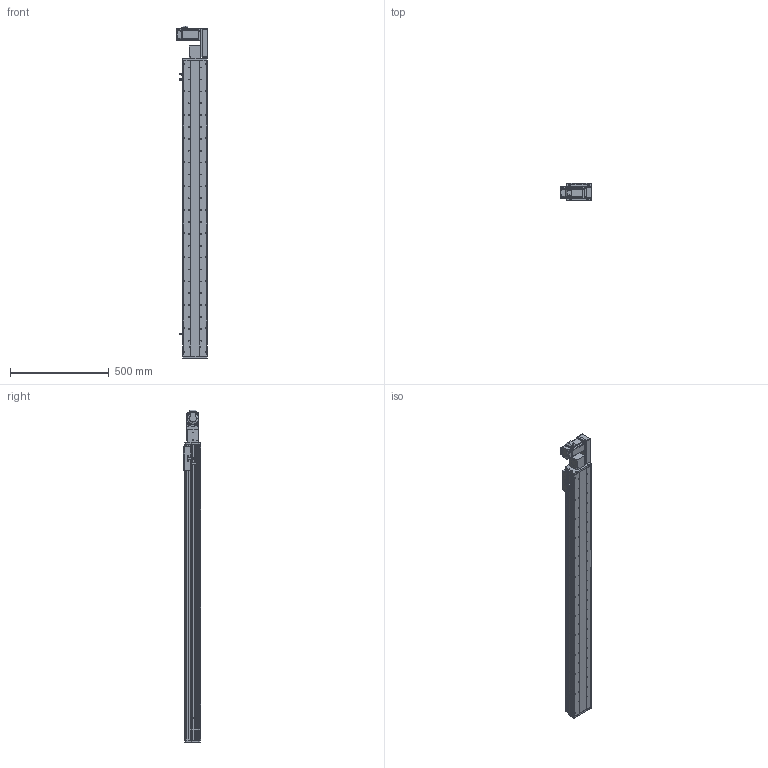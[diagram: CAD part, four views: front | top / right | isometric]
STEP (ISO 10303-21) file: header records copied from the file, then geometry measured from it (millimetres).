
FILE_DESCRIPTION (( 'STEP AP214' ), '1' );
FILE_NAME ('KSD125B-S1300-MLB-CM.STEP', '2017-10-21T02:01:21', ( '微软用户' ), ( '微软中国' ), 'SwSTEP 2.0', 'SolidWorks 2014', '' );
FILE_SCHEMA (( 'AUTOMOTIVE_DESIGN' ));
Length unit declared in the file: millimetre
Products named in the file (17): HTPA30S3M150_A_H6_a佪裝蚚; HTPA30S3M150_A_H6_a萇儂蚚; 100宽马达安装板连板上下折丝杆同步带; 100宽马达安装板同步带左; KSD125模组1300行程同步带-防尘盖; 125模组1300行程同步带-底板; MHMD042G1CA_2_03; KSD125模组同步带-防撞垫2; 覜茼え68遵圉猾敕; U倰嫖萇假蚾璃; U倰嫖萇EEㄜSX672; KSD125模组同步带-防撞垫1; 前端板-125宽模组同步带; 125模组同步带-尾端板1; KSD125模组同步带-滑动座1; KSD125B-S1300-MLB-CM; 悵誘欶奻狟殏
Assembly tree (20 placements, depth 2):
  KSD125B-S1300-MLB-CM
    KSD125模组同步带-滑动座1
    125模组同步带-尾端板1
    前端板-125宽模组同步带
    KSD125模组同步带-防撞垫1
    U倰嫖萇EEㄜSX672  x3
    U倰嫖萇假蚾璃  x3
    覜茼え68遵圉猾敕
    KSD125模组同步带-防撞垫2
    MHMD042G1CA_2_03
    125模组1300行程同步带-底板
    KSD125模组1300行程同步带-防尘盖
    100宽马达安装板同步带左
    100宽马达安装板连板上下折丝杆同步带
    HTPA30S3M150_A_H6_a萇儂蚚
    HTPA30S3M150_A_H6_a佪裝蚚
    悵誘欶奻狟殏
Bounding box: 155 x 86 x 1678 mm (x, y, z)
Volume: 4725648.6 mm3; surface area: 1573319.4 mm2
Topology: 19 solids, 22 shells, 2355 faces, 6835 edges, 4518 vertices
Faces by surface type: cylinder 1496, plane 732, cone 105, bspline 22
Entity records: 84241 total; most frequent: CARTESIAN_POINT 16603, DIRECTION 13080, ORIENTED_EDGE 12190, EDGE_CURVE 6173, AXIS2_PLACEMENT_3D 5071, VERTEX_POINT 4110, LINE 2938, VECTOR 2938
